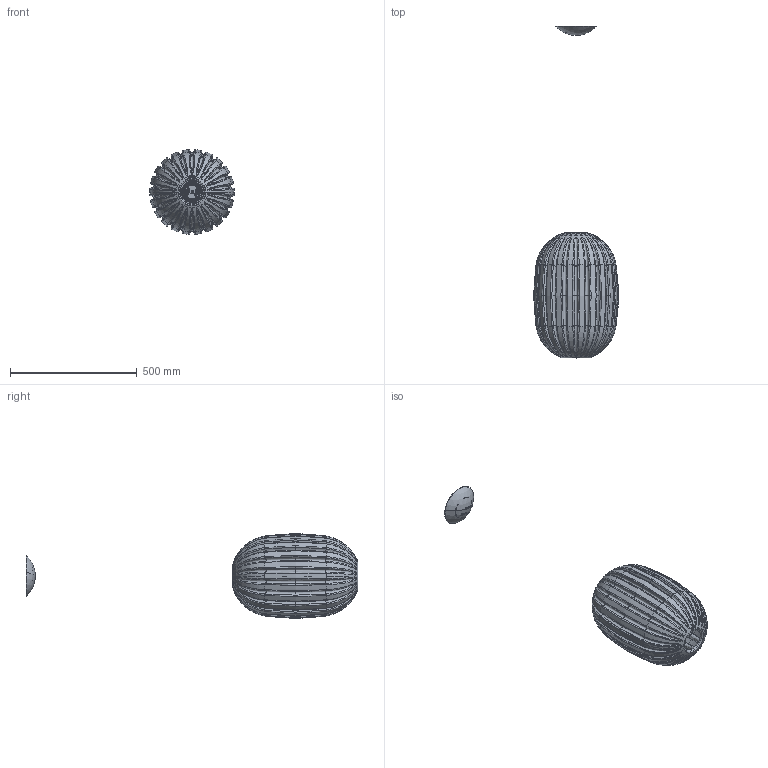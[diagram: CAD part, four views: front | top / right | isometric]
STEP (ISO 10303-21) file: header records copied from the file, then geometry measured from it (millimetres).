
FILE_DESCRIPTION (( 'STEP AP214' ), '1' );
FILE_NAME ('224_MEDIA_S_PL_3D.STEP', '2021-05-06T12:52:36', ( '' ), ( '' ), 'SwSTEP 2.0', 'SolidWorks 2021', '' );
FILE_SCHEMA (( 'AUTOMOTIVE_DESIGN' ));
Length unit declared in the file: millimetre
Products named in the file (1): 224_MEDIA_S_PL_3D
Bounding box: 334.8 x 1310 x 333.99 mm (x, y, z)
Volume: 1969151.3 mm3; surface area: 1325082.6 mm2
Topology: 4 solids, 4 shells, 2149 faces, 5512 edges, 3329 vertices
Faces by surface type: bspline 1374, plane 243, cylinder 213, torus 172, cone 98, sphere 49
Entity records: 255128 total; most frequent: CARTESIAN_POINT 190913, ORIENTED_EDGE 10868, EDGE_CURVE 5434, DIRECTION 4949, VERTEX_POINT 3329, B_SPLINE_CURVE_WITH_KNOTS 3310, EDGE_LOOP 2221, UNCERTAINTY_MEASURE_WITH_UNIT 2155
